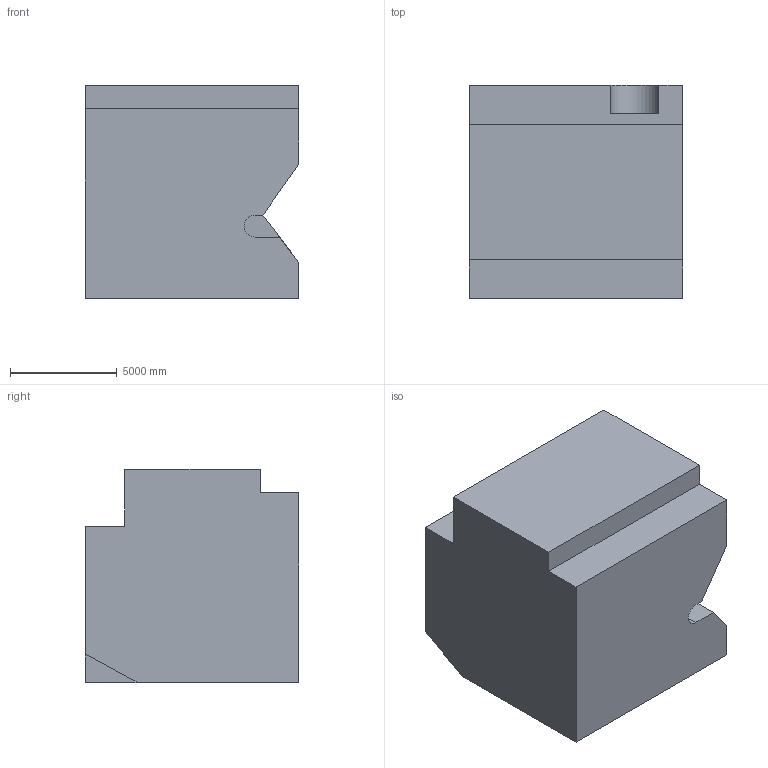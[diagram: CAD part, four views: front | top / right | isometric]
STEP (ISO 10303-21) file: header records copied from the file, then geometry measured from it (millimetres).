
FILE_DESCRIPTION (( 'STEP AP203' ), '1' );
FILE_NAME ('339.STEP', '2022-09-07T15:19:17', ( 'user' ), ( '' ), 'SwSTEP 2.0', 'SolidWorks 2021', '' );
FILE_SCHEMA (( 'CONFIG_CONTROL_DESIGN' ));
Length unit declared in the file: centimetre
Products named in the file (1): 339
Bounding box: 10000 x 10000 x 10000 mm (x, y, z)
Volume: 833129051169.5 mm3; surface area: 659092306.6 mm2
Topology: 1 solids, 1 shells, 28 faces, 74 edges, 49 vertices
Faces by surface type: plane 26, cylinder 2
Entity records: 931 total; most frequent: CARTESIAN_POINT 152, ORIENTED_EDGE 148, DIRECTION 136, EDGE_CURVE 74, VECTOR 70, LINE 70, VERTEX_POINT 49, AXIS2_PLACEMENT_3D 33
